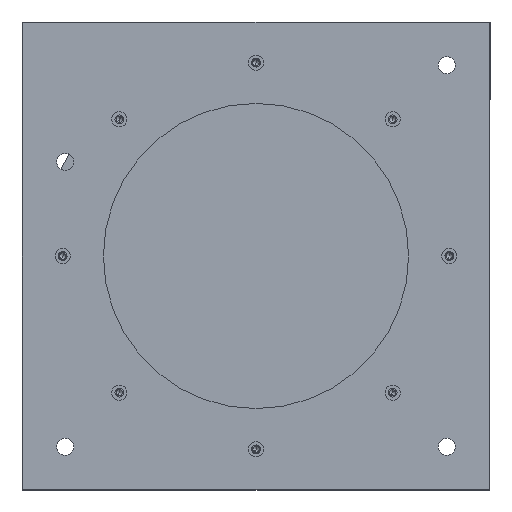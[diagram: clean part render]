
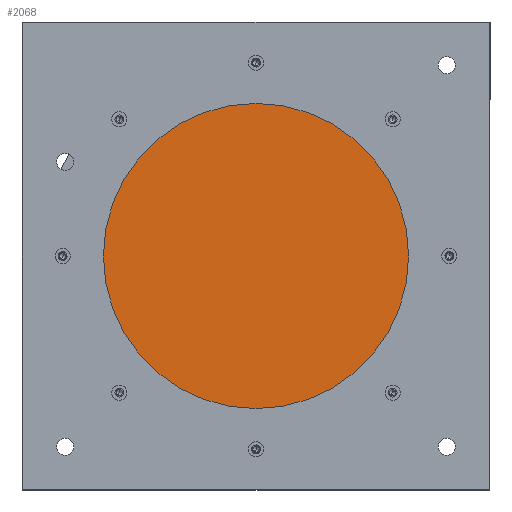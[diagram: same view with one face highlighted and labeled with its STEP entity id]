
A CAD part, front view. The second image highlights one B-rep face of the part: STEP entity #2068.
In plain terms, the highlighted planar face has unit normal (0, -1, 0).
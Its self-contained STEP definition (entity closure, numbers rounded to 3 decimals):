
#93 = DIRECTION ( 'NONE',  ( 0., 0., -1. ) ) ;
#416 = ORIENTED_EDGE ( 'NONE', *, *, #8386, .T. ) ;
#658 = AXIS2_PLACEMENT_3D ( 'NONE', #7316, #10713, #5704 ) ;
#844 = DIRECTION ( 'NONE',  ( 0., -1., 0. ) ) ;
#879 = AXIS2_PLACEMENT_3D ( 'NONE', #5204, #844, #93 ) ;
#2068 = ADVANCED_FACE ( 'NONE', ( #3542 ), #9807, .T. ) ;
#2339 = VERTEX_POINT ( 'NONE', #3617 ) ;
#2373 = CIRCLE ( 'NONE', #879, 60. ) ;
#3032 = DIRECTION ( 'NONE',  ( 0., -1., 0. ) ) ;
#3187 = CARTESIAN_POINT ( 'NONE',  ( 0., -4., 0. ) ) ;
#3542 = FACE_OUTER_BOUND ( 'NONE', #7457, .T. ) ;
#3617 = CARTESIAN_POINT ( 'NONE',  ( 0., -4., -60. ) ) ;
#4056 = DIRECTION ( 'NONE',  ( 0., 0., -1. ) ) ;
#4318 = AXIS2_PLACEMENT_3D ( 'NONE', #3187, #3032, #4056 ) ;
#5192 = CIRCLE ( 'NONE', #4318, 60. ) ;
#5204 = CARTESIAN_POINT ( 'NONE',  ( 0., -4., 0. ) ) ;
#5704 = DIRECTION ( 'NONE',  ( 0., 0., -1. ) ) ;
#7316 = CARTESIAN_POINT ( 'NONE',  ( 0., -4., 0. ) ) ;
#7457 = EDGE_LOOP ( 'NONE', ( #416, #10570 ) ) ;
#8143 = EDGE_CURVE ( 'NONE', #10317, #2339, #5192, .T. ) ;
#8386 = EDGE_CURVE ( 'NONE', #2339, #10317, #2373, .T. ) ;
#9807 = PLANE ( 'NONE',  #658 ) ;
#10317 = VERTEX_POINT ( 'NONE', #10341 ) ;
#10341 = CARTESIAN_POINT ( 'NONE',  ( 0., -4., 60. ) ) ;
#10570 = ORIENTED_EDGE ( 'NONE', *, *, #8143, .T. ) ;
#10713 = DIRECTION ( 'NONE',  ( 0., -1., 0. ) ) ;
